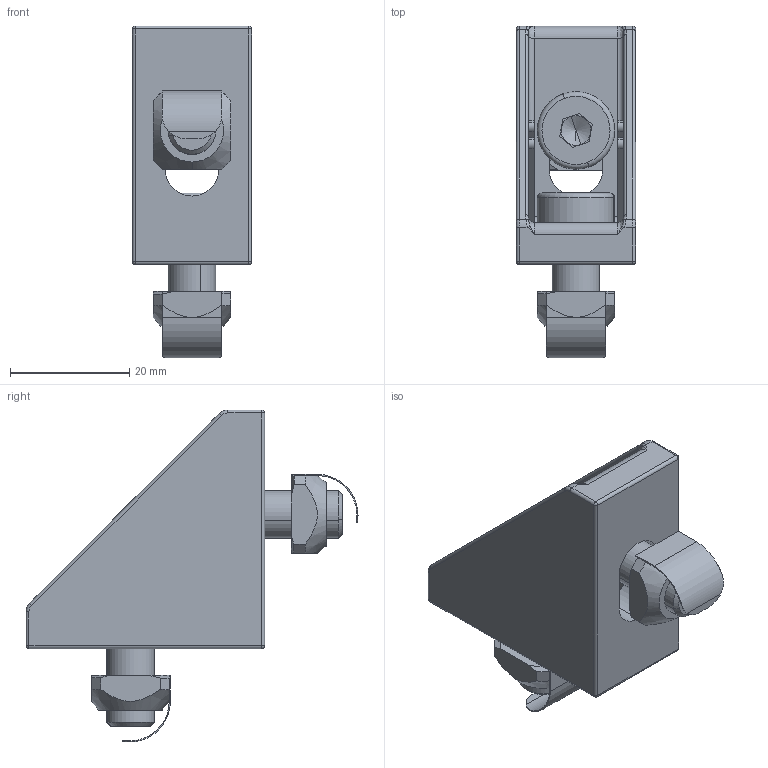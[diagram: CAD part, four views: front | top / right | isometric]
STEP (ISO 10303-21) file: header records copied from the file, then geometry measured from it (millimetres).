
FILE_DESCRIPTION (( 'STEP AP214' ), '1' );
FILE_NAME ('1.3017 Kulma 19.STEP', '2024-01-11T14:13:35', ( '' ), ( '' ), 'SwSTEP 2.0', 'SolidWorks 2024', '' );
FILE_SCHEMA (( 'AUTOMOTIVE_DESIGN' ));
Length unit declared in the file: millimetre
Products named in the file (1): 1.3017 Kulma 19
Bounding box: 20 x 55.65 x 55.65 mm (x, y, z)
Volume: 15327.1 mm3; surface area: 10033.2 mm2
Topology: 5 solids, 5 shells, 217 faces, 533 edges, 316 vertices
Faces by surface type: plane 106, cylinder 59, cone 18, bspline 16, torus 12, sphere 6
Entity records: 9130 total; most frequent: CARTESIAN_POINT 1747, ORIENTED_EDGE 1038, DIRECTION 1009, EDGE_CURVE 519, AXIS2_PLACEMENT_3D 362, VERTEX_POINT 316, VECTOR 285, LINE 285
